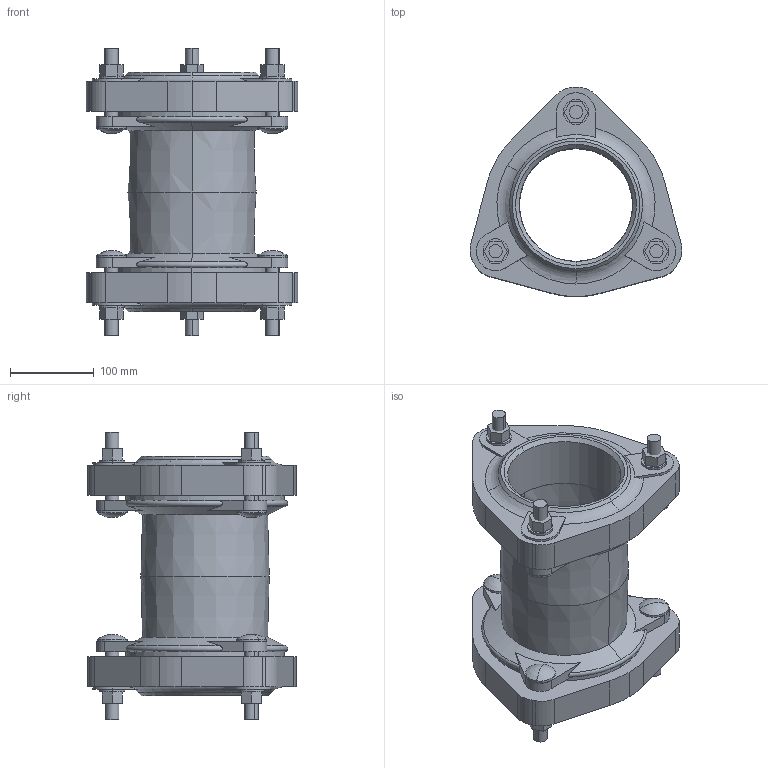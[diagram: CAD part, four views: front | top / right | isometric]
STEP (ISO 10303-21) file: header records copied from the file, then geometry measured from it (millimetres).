
FILE_DESCRIPTION((''),'2;1');
FILE_NAME('BIM_13198_5_ASM','2019-04-09T',('MReader'),(''),'CREO PARAMETRIC BY PTC INC, 2016130','CREO PARAMETRIC BY PTC INC, 2016130','');
FILE_SCHEMA(('CONFIG_CONTROL_DESIGN'));
Length unit declared in the file: millimetre
Products named in the file (3): BIM_12237; BIM_12239; BIM_13198_5_ASM
Assembly tree (3 placements, depth 2):
  BIM_13198_5_ASM
    BIM_12237
    BIM_12239  x2
Bounding box: 252.28 x 248.9 x 342.12 mm (x, y, z)
Volume: 3633147.8 mm3; surface area: 504986.3 mm2
Topology: 3 solids, 3 shells, 248 faces, 656 edges, 426 vertices
Faces by surface type: plane 120, cylinder 80, cone 28, sphere 12, torus 8
Entity records: 5577 total; most frequent: CARTESIAN_POINT 1251, DIRECTION 937, ORIENTED_EDGE 864, EDGE_CURVE 432, AXIS2_PLACEMENT_3D 365, VERTEX_POINT 283, VECTOR 207, LINE 207
